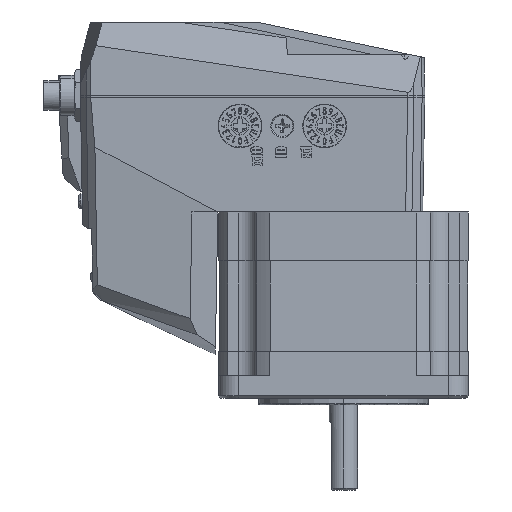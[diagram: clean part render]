
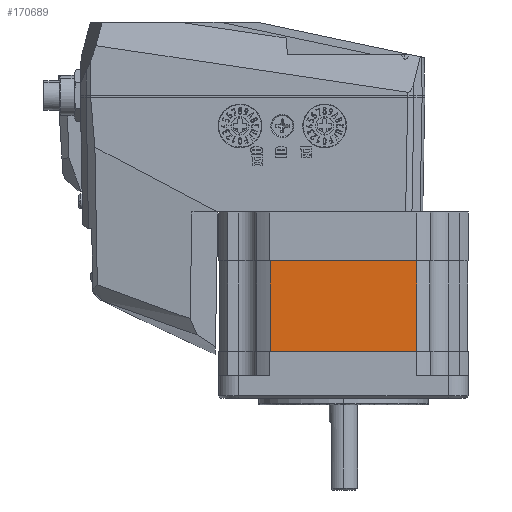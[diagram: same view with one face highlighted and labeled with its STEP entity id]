
A CAD part, left-side view. The second image highlights one B-rep face of the part: STEP entity #170689.
In plain terms, the highlighted planar face has unit normal (-1, 0, 0).
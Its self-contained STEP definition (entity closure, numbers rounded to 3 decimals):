
#818 = CARTESIAN_POINT ( 'NONE',  ( 0., 11.427, -18.621 ) ) ;
#6917 = ORIENTED_EDGE ( 'NONE', *, *, #14429, .F. ) ;
#9151 = VERTEX_POINT ( 'NONE', #818 ) ;
#14429 = EDGE_CURVE ( 'NONE', #67112, #168265, #190252, .T. ) ;
#19698 = AXIS2_PLACEMENT_3D ( 'NONE', #156244, #110732, #29990 ) ;
#22807 = LINE ( 'NONE', #87656, #69217 ) ;
#24885 = DIRECTION ( 'NONE',  ( 0., 1., 0. ) ) ;
#29990 = DIRECTION ( 'NONE',  ( 0., 0., -1. ) ) ;
#45807 = EDGE_CURVE ( 'NONE', #84177, #168265, #71944, .T. ) ;
#46387 = DIRECTION ( 'NONE',  ( 0., 0., -1. ) ) ;
#56030 = CARTESIAN_POINT ( 'NONE',  ( 0., 44.373, -28.821 ) ) ;
#59780 = FACE_OUTER_BOUND ( 'NONE', #143911, .T. ) ;
#62290 = LINE ( 'NONE', #143916, #179045 ) ;
#67112 = VERTEX_POINT ( 'NONE', #198603 ) ;
#69217 = VECTOR ( 'NONE', #24885, 1000. ) ;
#71944 = LINE ( 'NONE', #56030, #170389 ) ;
#77137 = ORIENTED_EDGE ( 'NONE', *, *, #45807, .T. ) ;
#84177 = VERTEX_POINT ( 'NONE', #167420 ) ;
#86524 = CARTESIAN_POINT ( 'NONE',  ( 0., 44.373, -39.021 ) ) ;
#87656 = CARTESIAN_POINT ( 'NONE',  ( 0., 27.9, -18.621 ) ) ;
#90772 = CARTESIAN_POINT ( 'NONE',  ( 0., 27.9, -39.021 ) ) ;
#108796 = DIRECTION ( 'NONE',  ( 0., 1., 0. ) ) ;
#110732 = DIRECTION ( 'NONE',  ( 1., 0., 0. ) ) ;
#112551 = EDGE_CURVE ( 'NONE', #9151, #67112, #62290, .T. ) ;
#116703 = ORIENTED_EDGE ( 'NONE', *, *, #112551, .F. ) ;
#129924 = DIRECTION ( 'NONE',  ( 0., 0., -1. ) ) ;
#143911 = EDGE_LOOP ( 'NONE', ( #173211, #77137, #6917, #116703 ) ) ;
#143916 = CARTESIAN_POINT ( 'NONE',  ( 0., 11.427, -28.821 ) ) ;
#156244 = CARTESIAN_POINT ( 'NONE',  ( 0., 11.427, -18.621 ) ) ;
#167420 = CARTESIAN_POINT ( 'NONE',  ( 0., 44.373, -18.621 ) ) ;
#168265 = VERTEX_POINT ( 'NONE', #86524 ) ;
#170389 = VECTOR ( 'NONE', #129924, 1000. ) ;
#170689 = ADVANCED_FACE ( 'NONE', ( #59780 ), #207036, .F. ) ;
#173211 = ORIENTED_EDGE ( 'NONE', *, *, #201229, .T. ) ;
#179045 = VECTOR ( 'NONE', #46387, 1000. ) ;
#183308 = VECTOR ( 'NONE', #108796, 1000. ) ;
#190252 = LINE ( 'NONE', #90772, #183308 ) ;
#198603 = CARTESIAN_POINT ( 'NONE',  ( 0., 11.427, -39.021 ) ) ;
#201229 = EDGE_CURVE ( 'NONE', #9151, #84177, #22807, .T. ) ;
#207036 = PLANE ( 'NONE',  #19698 ) ;
